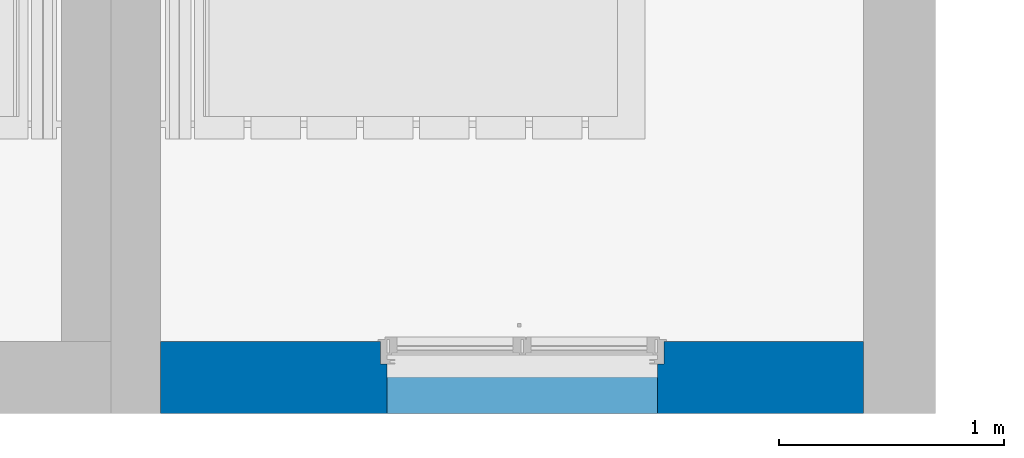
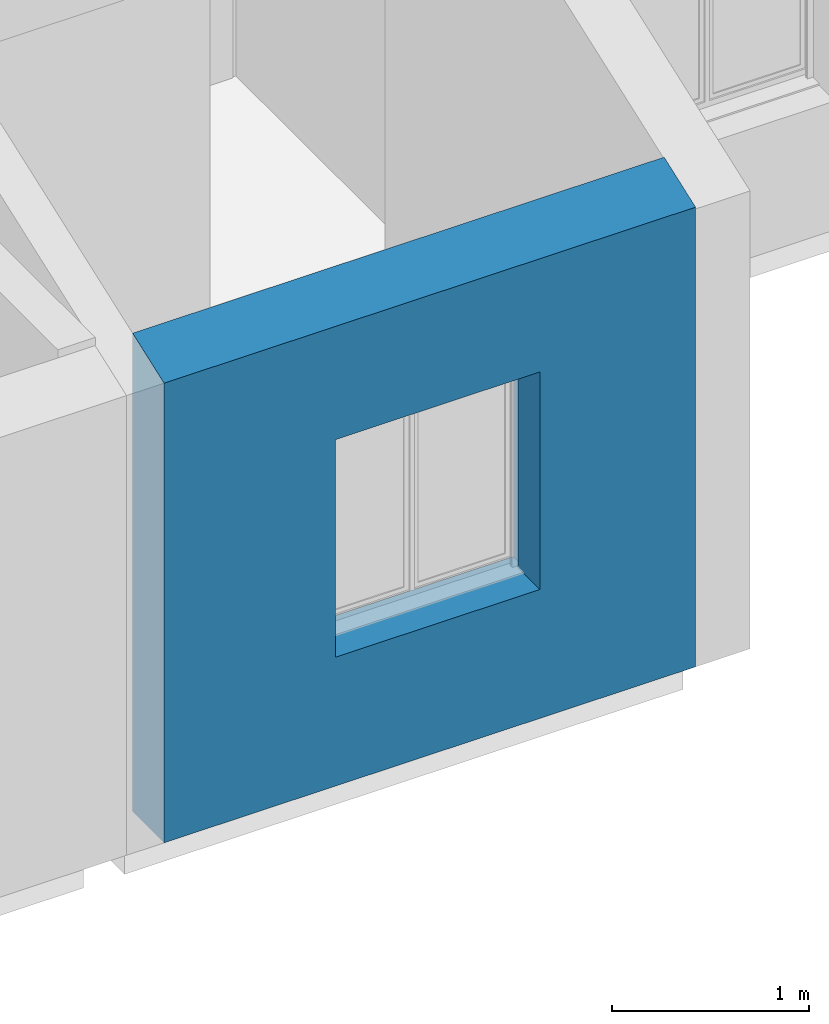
# One storey, part 13 of 61: 1 wall, 1 opening.
"""IFC2X3 building model written with IfcOpenShell, lengths in metres."""

from ifc_helpers import new_model, entity, si_unit, converted_unit, derived_unit, direction, frame, frame_2d, origin, place, context, subcontext, project, spatial, polyline, rectangle, extrude, clip, bounded_halfspace, faceted_brep, material, layer, layer_set, layer_usage, type_object, element, save


model = new_model("IFC2X3")

# Units and contexts
model_context = context("Model", 3, precision=1e-05, world=origin(), true_north=direction((6.12303176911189e-17, 1.0)))
body_context = subcontext(model_context, "Body", "Model", "MODEL_VIEW")
ifc_project = project(units=[si_unit("LENGTHUNIT", "METRE"), si_unit("AREAUNIT", "SQUARE_METRE"), si_unit("VOLUMEUNIT", "CUBIC_METRE"), converted_unit("PLANEANGLEUNIT", "DEGREE", entity("IfcRatioMeasure", 0.0174532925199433), si_unit("PLANEANGLEUNIT", "RADIAN"), dimensions=[0, 0, 0, 0, 0, 0, 0]), si_unit("MASSUNIT", "GRAM", prefix="KILO"), derived_unit("MASSDENSITYUNIT", [(si_unit("MASSUNIT", "GRAM", prefix="KILO"), 1), (si_unit("LENGTHUNIT", "METRE"), -3)]), si_unit("TIMEUNIT", "SECOND"), si_unit("FREQUENCYUNIT", "HERTZ"), si_unit("THERMODYNAMICTEMPERATUREUNIT", "DEGREE_CELSIUS"), derived_unit("THERMALTRANSMITTANCEUNIT", [(si_unit("MASSUNIT", "GRAM", prefix="KILO"), 1), (si_unit("THERMODYNAMICTEMPERATUREUNIT", "KELVIN"), -1), (si_unit("TIMEUNIT", "SECOND"), -3)]), derived_unit("VOLUMETRICFLOWRATEUNIT", [(si_unit("LENGTHUNIT", "METRE"), 3), (si_unit("TIMEUNIT", "SECOND"), -1)]), si_unit("ELECTRICCURRENTUNIT", "AMPERE"), si_unit("ELECTRICVOLTAGEUNIT", "VOLT"), si_unit("POWERUNIT", "WATT"), si_unit("FORCEUNIT", "NEWTON", prefix="KILO"), si_unit("ILLUMINANCEUNIT", "LUX"), si_unit("LUMINOUSFLUXUNIT", "LUMEN"), si_unit("LUMINOUSINTENSITYUNIT", "CANDELA"), derived_unit("USERDEFINED", [(si_unit("MASSUNIT", "GRAM", prefix="KILO"), -1), (si_unit("LENGTHUNIT", "METRE"), -2), (si_unit("TIMEUNIT", "SECOND"), 3), (si_unit("LUMINOUSFLUXUNIT", "LUMEN"), 1)]), derived_unit("LINEARVELOCITYUNIT", [(si_unit("LENGTHUNIT", "METRE"), 1), (si_unit("TIMEUNIT", "SECOND"), -1)]), si_unit("PRESSUREUNIT", "PASCAL"), derived_unit("USERDEFINED", [(si_unit("LENGTHUNIT", "METRE"), -2), (si_unit("MASSUNIT", "GRAM", prefix="KILO"), 1), (si_unit("TIMEUNIT", "SECOND"), -2)])], contexts=[model_context])

# Site, building, storey
site_placement = place(None, origin())
site = spatial("IfcSite", under=ifc_project, at=site_placement, Name="Surface", CompositionType="ELEMENT")
building_placement = place(site_placement, origin())
building = spatial("IfcBuilding", under=site, at=building_placement, CompositionType="ELEMENT")
storey_placement = place(building_placement, frame((0.0, 0.0, 2.82)))
storey = spatial("IfcBuildingStorey", under=building, at=storey_placement, Name="ETAGE", CompositionType="ELEMENT", Elevation=2.82)

# Wall, opening
ifc_material_1 = material(Name="Enduit  gris")
ifc_layer_1 = layer(ifc_material_1, 0.02)
ifc_material_2 = material(Name="Parpaing")
ifc_layer_2 = layer(ifc_material_2, 0.2)
ifc_material_3 = material(Name="Isolant")
ifc_layer_3 = layer(ifc_material_3, 0.1)
ifc_layer_set = layer_set([ifc_layer_1, ifc_layer_2, ifc_layer_3], Name="Mur de base:Ext. Parpaing 20 + Isolant 10 enduit gris")
ifc_layer_usage = layer_usage(ifc_layer_set, "AXIS2", "NEGATIVE", 0.16)
wall_type = type_object("IfcWallType", Name="Mur de base:Ext. Parpaing 20 + Isolant 10 enduit gris", PredefinedType="STANDARD", material=ifc_layer_set)
wall_placement = place(storey_placement, frame((72.174626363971, 77.0477566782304, 0.0), z_axis=(0.0, 0.0, 1.0), x_axis=(-1.0, 0.0, 0.0)))
wall = element("IfcWallStandardCase", 1, at=wall_placement, inside=storey, type_object=wall_type, material=ifc_layer_usage, Name="Mur de base:Ext. Parpaing 20 + Isolant 10 enduit gris", ObjectType="Mur de base:Ext. Parpaing 20 + Isolant 10 enduit gris", context=body_context, shape_type="Clipping", body=[
    clip(extrude(rectangle(XDim=3.12038340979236, YDim=0.319999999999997, at=frame_2d((1.56019170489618, 0.0), x_axis=(-1.0, 0.0))), origin(), (0.0, 0.0, 1.0), 2.96926452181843), bounded_halfspace(frame((0.0, -0.159999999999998, 2.96926452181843), z_axis=(0.0, -0.342020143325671, -0.939692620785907), x_axis=(1.0, 0.0, 0.0)), True, frame((0.0, -0.159999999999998, 2.96926452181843)), polyline([(0.0, 0.0), (3.12038340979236, 0.0), (3.12038340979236, 0.319999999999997), (0.0, 0.319999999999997), (0.0, 0.0)]))),
])
opening_placement = place(wall_placement, frame((2.15499999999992, 0.460000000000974, 0.799999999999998), z_axis=(0.0, 0.0, 1.0), x_axis=(-1.0, 0.0, 0.0)))
element("IfcOpeningElement", 2, at=opening_placement, cuts=wall, Name="Mur de base:Ext. Parpaing 20 + Isolant 10 enduit gris", ObjectType="Opening", context=body_context, shape_type="Brep", body=[
    faceted_brep([(0.0400000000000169, 0.720000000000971, 1.35), (0.0400000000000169, 0.620000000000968, 1.35), (1.24000000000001, 0.620000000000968, 1.35), (1.24000000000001, 0.720000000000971, 1.35), (0.0400000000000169, 0.0, 0.0), (0.0400000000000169, 0.520000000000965, 0.0), (0.0100000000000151, 0.520000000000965, 0.0), (0.0100000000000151, 0.620000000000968, 0.0), (0.0400000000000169, 0.620000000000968, 0.0), (0.0400000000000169, 0.720000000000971, 0.0), (1.24000000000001, 0.720000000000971, 0.0), (1.24000000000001, 0.620000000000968, 0.0), (1.27000000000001, 0.620000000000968, 0.0), (1.27000000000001, 0.520000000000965, 0.0), (1.24000000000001, 0.520000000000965, 0.0), (1.24000000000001, 0.0, 0.0), (0.0400000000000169, 0.0, 1.35), (1.24000000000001, 0.0, 1.35), (0.0400000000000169, 0.520000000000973, 1.35), (0.0100000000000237, 0.620000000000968, 1.38), (0.0, 0.620000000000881, 1.38000000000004), (0.0, 0.620000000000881, 1.59000000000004), (1.28000000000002, 0.620000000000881, 1.59000000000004), (1.28000000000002, 0.620000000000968, 1.38000000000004), (1.27000000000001, 0.620000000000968, 1.38), (1.27000000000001, 0.520000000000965, 1.38), (1.28000000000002, 0.520000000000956, 1.38000000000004), (1.28000000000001, 0.520000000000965, 1.59000000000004), (0.0, 0.520000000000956, 1.59000000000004), (0.0, 0.520000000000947, 1.38000000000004), (0.0100000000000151, 0.520000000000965, 1.38), (1.24000000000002, 0.520000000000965, 1.35)], [[[0, 1, 2, 3]], [[4, 5, 6, 7, 8, 9, 10, 11, 12, 13, 14, 15]], [[16, 4, 15, 17]], [[3, 2, 11, 10]], [[3, 10, 9, 0]], [[16, 18, 5, 4]], [[11, 2, 1, 8, 7, 19, 20, 21, 22, 23, 24, 12]], [[12, 24, 25, 13]], [[13, 25, 26, 27, 28, 29, 30, 6, 5, 18, 31, 14]], [[7, 6, 30, 19]], [[26, 23, 22, 27]], [[29, 28, 21, 20]], [[26, 25, 24, 23]], [[22, 21, 28, 27]], [[20, 19, 30, 29]], [[9, 8, 1, 0]], [[15, 14, 31, 17]], [[17, 31, 18, 16]]]),
])

save(model, "model.ifc")
